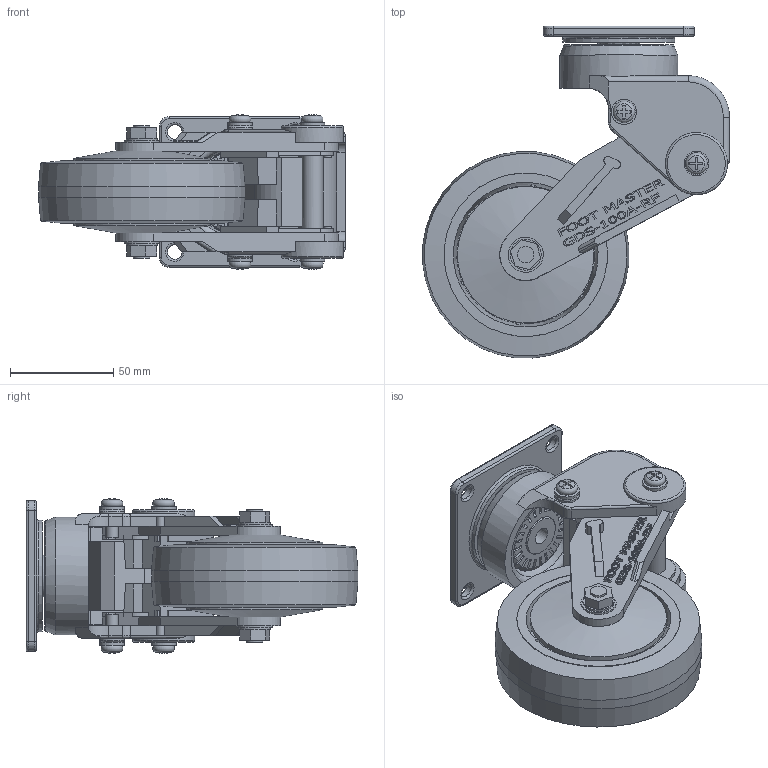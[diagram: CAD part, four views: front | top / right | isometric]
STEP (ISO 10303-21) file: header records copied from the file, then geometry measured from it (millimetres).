
FILE_DESCRIPTION((''),'2;1');
FILE_NAME('C:\Documents and Settings\Administrator\바탕 화면\3D STEP\GDS-SERIES\GDS-100\GDS-100-ARF.stp','2010-12-27T13:22:54',('Administrator'),(''),'Autodesk Inventor 2009','Autodesk Inventor 2009','');
FILE_SCHEMA(('AUTOMOTIVE_DESIGN { 1 0 10303 214 1 1 1 1 }'));
Length unit declared in the file: millimetre
Products named in the file (1): GDS-100-ARF
Bounding box: 148.36 x 160.4 x 74.74 mm (x, y, z)
Volume: 181849.9 mm3; surface area: 131968.3 mm2
Topology: 2 solids, 3 shells, 998 faces, 2743 edges, 1809 vertices
Faces by surface type: plane 620, bspline 148, cylinder 134, cone 56, torus 40
Full cylindrical faces by diameter (mm): 6 x6, 7 x4, 8 x5, 8.4 x3, 10 x2, 10.1 x2, 10.2 x2, 10.7 x1, 10.931 x2, 12 x2, 13 x6, 15 x2, 17 x2, 19.8 x2, 20 x2, 22 x2, 25 x1, 25.5 x1, 27 x1, 30 x2, 39 x1, 39.4 x1, 40.2 x1, 40.4 x1, 54 x1, 57 x1, 63.995 x2, 65.991 x2, 100 x1
Entity records: 34023 total; most frequent: CARTESIAN_POINT 9950, ORIENTED_EDGE 5122, DIRECTION 4581, EDGE_CURVE 2561, VERTEX_POINT 1752, AXIS2_PLACEMENT_3D 1566, VECTOR 1449, LINE 1449
